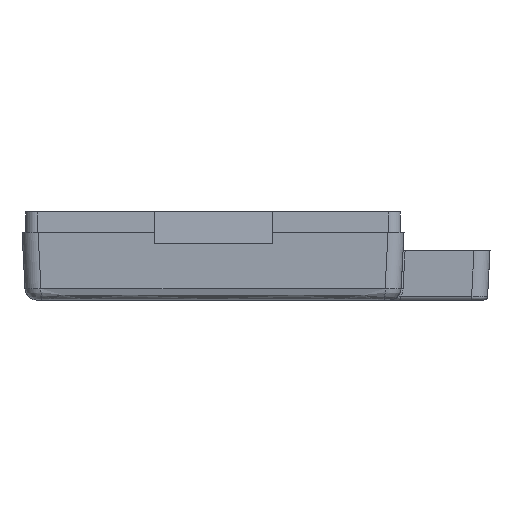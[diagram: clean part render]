
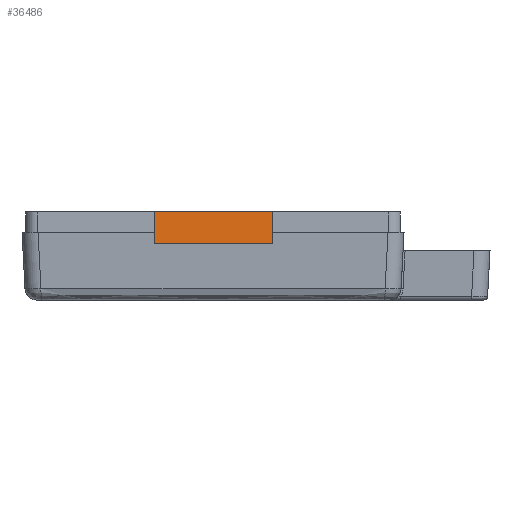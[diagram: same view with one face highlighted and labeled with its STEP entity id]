
A CAD part, left-side view. The second image highlights one B-rep face of the part: STEP entity #36486.
In plain terms, the highlighted planar face has unit normal (-0.999, 0, 0.052).
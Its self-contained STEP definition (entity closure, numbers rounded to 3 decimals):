
#19298 = PLANE('',#19299);
#19299 = AXIS2_PLACEMENT_3D('',#19300,#19301,#19302);
#19300 = CARTESIAN_POINT('',(343.153,255.806,22.));
#19301 = DIRECTION('',(0.,0.,1.));
#19302 = DIRECTION('',(-0.964,-0.268,0.));
#19381 = CYLINDRICAL_SURFACE('',#19382,3.);
#19382 = AXIS2_PLACEMENT_3D('',#19383,#19384,#19385);
#19383 = CARTESIAN_POINT('',(337.161,165.891,
    22.313));
#19384 = DIRECTION('',(-0.052,0.052,
    -0.997));
#19385 = DIRECTION('',(0.,-0.999,
    -0.052));
#33024 = VERTEX_POINT('',#33025);
#33025 = CARTESIAN_POINT('',(340.149,249.806,22.));
#33044 = CYLINDRICAL_SURFACE('',#33045,3.);
#33045 = AXIS2_PLACEMENT_3D('',#33046,#33047,#33048);
#33046 = CARTESIAN_POINT('',(336.165,248.818,
    3.313));
#33047 = DIRECTION('',(0.052,0.052,
    0.997));
#33048 = DIRECTION('',(0.,0.999,-0.052));
#33058 = EDGE_CURVE('',#33024,#33059,#33061,.T.);
#33059 = VERTEX_POINT('',#33060);
#33060 = CARTESIAN_POINT('',(340.149,165.9,22.));
#33061 = SURFACE_CURVE('',#33062,(#33066,#33073),.PCURVE_S1.);
#33062 = LINE('',#33063,#33064);
#33063 = CARTESIAN_POINT('',(340.149,231.829,22.));
#33064 = VECTOR('',#33065,1.);
#33065 = DIRECTION('',(0.,-1.,0.));
#33066 = PCURVE('',#19298,#33067);
#33067 = DEFINITIONAL_REPRESENTATION('',(#33068),#33072);
#33068 = LINE('',#33069,#33070);
#33069 = CARTESIAN_POINT('',(9.311,22.298));
#33070 = VECTOR('',#33071,1.);
#33071 = DIRECTION('',(0.268,0.964));
#33072 = ( GEOMETRIC_REPRESENTATION_CONTEXT(2) 
PARAMETRIC_REPRESENTATION_CONTEXT() REPRESENTATION_CONTEXT('2D SPACE',''
  ) );
#33073 = PCURVE('',#33074,#33079);
#33074 = PLANE('',#33075);
#33075 = AXIS2_PLACEMENT_3D('',#33076,#33077,#33078);
#33076 = CARTESIAN_POINT('',(339.581,207.853,11.157));
#33077 = DIRECTION('',(-0.999,0.,0.052));
#33078 = DIRECTION('',(0.,-1.,0.));
#33079 = DEFINITIONAL_REPRESENTATION('',(#33080),#33084);
#33080 = LINE('',#33081,#33082);
#33081 = CARTESIAN_POINT('',(-23.976,10.858));
#33082 = VECTOR('',#33083,1.);
#33083 = DIRECTION('',(1.,0.));
#33084 = ( GEOMETRIC_REPRESENTATION_CONTEXT(2) 
PARAMETRIC_REPRESENTATION_CONTEXT() REPRESENTATION_CONTEXT('2D SPACE',''
  ) );
#33117 = EDGE_CURVE('',#33059,#33118,#33120,.T.);
#33118 = VERTEX_POINT('',#33119);
#33119 = CARTESIAN_POINT('',(339.252,166.796,
    4.895));
#33120 = SURFACE_CURVE('',#33121,(#33125,#33132),.PCURVE_S1.);
#33121 = LINE('',#33122,#33123);
#33122 = CARTESIAN_POINT('',(340.157,165.891,
    22.156));
#33123 = VECTOR('',#33124,1.);
#33124 = DIRECTION('',(-0.052,0.052,
    -0.997));
#33125 = PCURVE('',#19381,#33126);
#33126 = DEFINITIONAL_REPRESENTATION('',(#33127),#33131);
#33127 = LINE('',#33128,#33129);
#33128 = CARTESIAN_POINT('',(-1.568,0.));
#33129 = VECTOR('',#33130,1.);
#33130 = DIRECTION('',(-0.,1.));
#33131 = ( GEOMETRIC_REPRESENTATION_CONTEXT(2) 
PARAMETRIC_REPRESENTATION_CONTEXT() REPRESENTATION_CONTEXT('2D SPACE',''
  ) );
#33132 = PCURVE('',#33074,#33133);
#33133 = DEFINITIONAL_REPRESENTATION('',(#33134),#33138);
#33134 = LINE('',#33135,#33136);
#33135 = CARTESIAN_POINT('',(41.961,11.014));
#33136 = VECTOR('',#33137,1.);
#33137 = DIRECTION('',(-0.052,-0.999));
#33138 = ( GEOMETRIC_REPRESENTATION_CONTEXT(2) 
PARAMETRIC_REPRESENTATION_CONTEXT() REPRESENTATION_CONTEXT('2D SPACE',''
  ) );
#33563 = CYLINDRICAL_SURFACE('',#33564,2.);
#33564 = AXIS2_PLACEMENT_3D('',#33565,#33566,#33567);
#33565 = CARTESIAN_POINT('',(337.255,166.895,5.));
#33566 = DIRECTION('',(0.,1.,0.));
#33567 = DIRECTION('',(0.999,0.,-0.052));
#36486 = ADVANCED_FACE('',(#36487),#33074,.T.);
#36487 = FACE_BOUND('',#36488,.T.);
#36488 = EDGE_LOOP('',(#36489,#36490,#36491,#36514));
#36489 = ORIENTED_EDGE('',*,*,#33117,.F.);
#36490 = ORIENTED_EDGE('',*,*,#33058,.F.);
#36491 = ORIENTED_EDGE('',*,*,#36492,.F.);
#36492 = EDGE_CURVE('',#36493,#33024,#36495,.T.);
#36493 = VERTEX_POINT('',#36494);
#36494 = CARTESIAN_POINT('',(339.252,248.909,
    4.895));
#36495 = SURFACE_CURVE('',#36496,(#36500,#36507),.PCURVE_S1.);
#36496 = LINE('',#36497,#36498);
#36497 = CARTESIAN_POINT('',(339.161,248.818,
    3.156));
#36498 = VECTOR('',#36499,1.);
#36499 = DIRECTION('',(0.052,0.052,
    0.997));
#36500 = PCURVE('',#33074,#36501);
#36501 = DEFINITIONAL_REPRESENTATION('',(#36502),#36506);
#36502 = LINE('',#36503,#36504);
#36503 = CARTESIAN_POINT('',(-40.965,-8.012));
#36504 = VECTOR('',#36505,1.);
#36505 = DIRECTION('',(-0.052,0.999));
#36506 = ( GEOMETRIC_REPRESENTATION_CONTEXT(2) 
PARAMETRIC_REPRESENTATION_CONTEXT() REPRESENTATION_CONTEXT('2D SPACE',''
  ) );
#36507 = PCURVE('',#33044,#36508);
#36508 = DEFINITIONAL_REPRESENTATION('',(#36509),#36513);
#36509 = LINE('',#36510,#36511);
#36510 = CARTESIAN_POINT('',(-1.568,0.));
#36511 = VECTOR('',#36512,1.);
#36512 = DIRECTION('',(-0.,1.));
#36513 = ( GEOMETRIC_REPRESENTATION_CONTEXT(2) 
PARAMETRIC_REPRESENTATION_CONTEXT() REPRESENTATION_CONTEXT('2D SPACE',''
  ) );
#36514 = ORIENTED_EDGE('',*,*,#36515,.F.);
#36515 = EDGE_CURVE('',#33118,#36493,#36516,.T.);
#36516 = SURFACE_CURVE('',#36517,(#36521,#36528),.PCURVE_S1.);
#36517 = LINE('',#36518,#36519);
#36518 = CARTESIAN_POINT('',(339.252,166.895,
    4.895));
#36519 = VECTOR('',#36520,1.);
#36520 = DIRECTION('',(0.,1.,0.));
#36521 = PCURVE('',#33074,#36522);
#36522 = DEFINITIONAL_REPRESENTATION('',(#36523),#36527);
#36523 = LINE('',#36524,#36525);
#36524 = CARTESIAN_POINT('',(40.957,-6.27));
#36525 = VECTOR('',#36526,1.);
#36526 = DIRECTION('',(-1.,0.));
#36527 = ( GEOMETRIC_REPRESENTATION_CONTEXT(2) 
PARAMETRIC_REPRESENTATION_CONTEXT() REPRESENTATION_CONTEXT('2D SPACE',''
  ) );
#36528 = PCURVE('',#33563,#36529);
#36529 = DEFINITIONAL_REPRESENTATION('',(#36530),#36534);
#36530 = LINE('',#36531,#36532);
#36531 = CARTESIAN_POINT('',(0.,0.));
#36532 = VECTOR('',#36533,1.);
#36533 = DIRECTION('',(0.,1.));
#36534 = ( GEOMETRIC_REPRESENTATION_CONTEXT(2) 
PARAMETRIC_REPRESENTATION_CONTEXT() REPRESENTATION_CONTEXT('2D SPACE',''
  ) );
